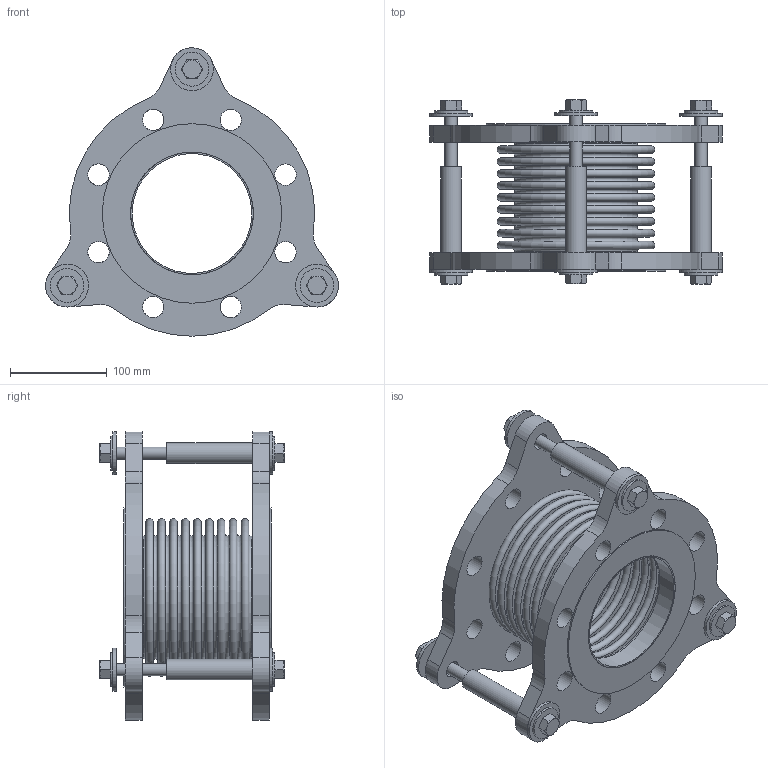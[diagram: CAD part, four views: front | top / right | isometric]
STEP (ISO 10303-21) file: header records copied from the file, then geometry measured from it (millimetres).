
FILE_DESCRIPTION(/* description */ (''),/* implementation_level */ '2;1');
FILE_NAME(/* name */ 'C:\001_Work\Designs\RFB\RFB-5x6.stp',/* time_stamp */ '2016-04-29T08:25:57-04:00',/* author */ ('rramoutar'),/* organization */ ('Mason Industries Inc.'),/* preprocessor_version */ 'ST-DEVELOPER v15.6',/* originating_system */ 'Autodesk Inventor 2015',/* authorisation */ '');
FILE_SCHEMA (('CONFIG_CONTROL_DESIGN'));
Length unit declared in the file: inch
Products named in the file (1): 5in_RFB_150FLANGE
Bounding box: 302.91 x 190.51 x 298.38 mm (x, y, z)
Volume: 1951503.6 mm3; surface area: 721804.8 mm2
Topology: 24 solids, 24 shells, 325 faces, 675 edges, 439 vertices
Faces by surface type: plane 137, cylinder 90, cone 60, torus 38
Full cylindrical faces by diameter (mm): 10.592 x3, 12.7 x9, 14.287 x6, 15.799 x3, 17.462 x6, 21.336 x3, 22.225 x16, 34.925 x6, 44.45 x6, 123.825 x2, 127 x4, 185.737 x2
Entity records: 8323 total; most frequent: CARTESIAN_POINT 1484, DIRECTION 1390, ORIENTED_EDGE 1068, AXIS2_PLACEMENT_3D 638, EDGE_LOOP 562, EDGE_CURVE 534, VERTEX_POINT 408, STYLED_ITEM 349
